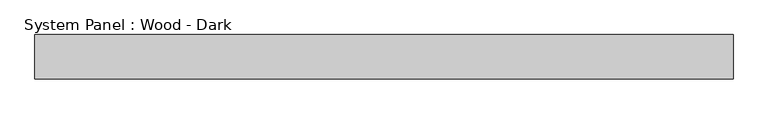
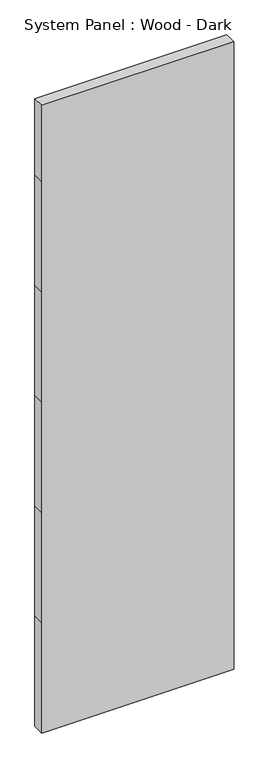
"""IFC4 building model written with IfcOpenShell, lengths in millimetres: plate geometry, System Panel : Wood - Dark."""

from ifc_helpers import new_model, si_unit, frame, origin, place, context, project, spatial, polyline, outline, extrude, source, transform, mapped, element, save


def system_panel_wood_dark_296b77de(model_context):
    return source(origin(), model_context, "Body", "SweptSolid", [
        extrude(outline(polyline([(0.0, -502.1791667), (0.0, 502.1791667), (609.6, 502.1791667), (1219.2, 502.1791667), (1828.8, 502.1791667), (2438.4, 502.1791667), (3048.0, 502.1791667), (3469.7473635, 502.1791667), (3469.7473635, -502.1791667), (3048.0, -502.1791667), (2438.4, -502.1791667), (1828.8, -502.1791667), (1219.2, -502.1791667), (609.6, -502.1791667), (0.0, -502.1791667)])), frame((0.0, -19.05, 0.0), z_axis=(0.0, 1.0, 0.0), x_axis=(0.0, 0.0, 1.0)), (0.0, 0.0, 1.0), 63.5),
    ])


if __name__ == "__main__":
    model = new_model("IFC4")
    model_context = context("Model", 3, world=origin())
    ifc_project = project(units=[si_unit("LENGTHUNIT", "METRE", prefix="MILLI")], contexts=[model_context])
    site = spatial("IfcSite", under=ifc_project)
    building = spatial("IfcBuilding", under=site)
    placement = place(None, origin())
    system_panel_wood_dark_shape = system_panel_wood_dark_296b77de(model_context)
    element("IfcPlate", 1, ObjectType="System Panel : Wood - Dark", at=placement, inside=building, context=model_context, shape_type="MappedRepresentation", body=[
        mapped(system_panel_wood_dark_shape, transform((0.0, 0.0, 0.0), x_axis=(1.0, 0.0, 0.0), y_axis=(0.0, 1.0, 0.0), z_axis=(0.0, 0.0, 1.0))),
    ])
    save(model, "model.ifc")
